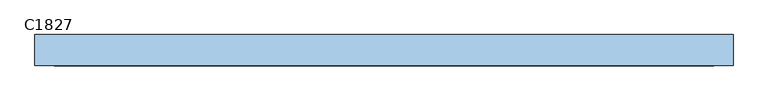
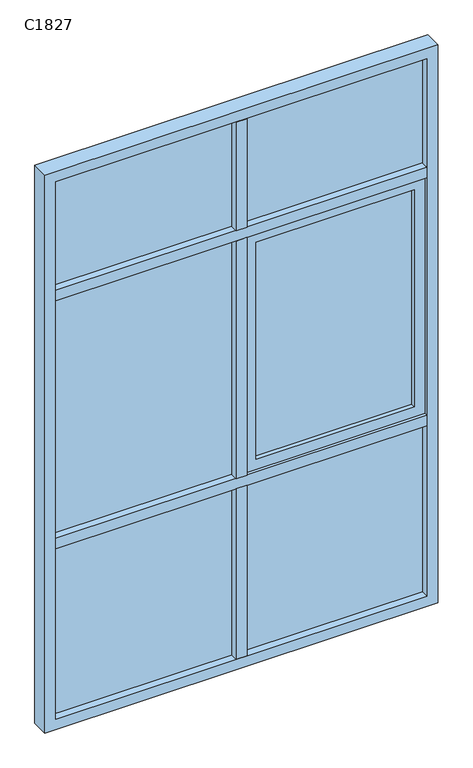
"""IFC4 building model written with IfcOpenShell, lengths in millimetres: window geometry, 组合窗 - 三层双列(平开+固定) : C1827."""

import ifcopenshell
import ifcopenshell.guid

model = None  # the IFC model being written
_history = None  # IfcOwnerHistory: only IFC2X3 demands one
_inside = {}  # id of a spatial element -> (the spatial element, [elements in it])
_under = {}  # id of a project, library or spatial element -> (it, [spatial elements below it])
_declared = {}  # id of a project -> (the project, [libraries it declares])
_typed = {}  # id of a type object -> (the type object, [elements of that type])
_made_of = {}  # id of a material, layer set ... -> (it, [elements and type objects made of it])


def new_model(schema):
    """Start an empty IFC model of exactly this schema.

    Asked for "IFC4X3", IfcOpenShell would pick the latest addendum, in which some entities
    have other attributes; the version numbers below select the first issue.
    IFC2X3 requires an IfcOwnerHistory on every rooted entity: one is made here for all.
    """
    global model, _history
    if schema == "IFC4X3":
        model = ifcopenshell.file(schema_version=(4, 3, 0, 0))
    else:
        model = ifcopenshell.file(schema=schema)
    _inside.clear()
    _under.clear()
    _declared.clear()
    _typed.clear()
    _made_of.clear()
    _history = None
    if model.schema == "IFC2X3":
        org = make("IfcOrganization", Name="unknown")
        user = make(
            "IfcPersonAndOrganization",
            ThePerson=make("IfcPerson", FamilyName="unknown"),
            TheOrganization=org,
        )
        app = make(
            "IfcApplication",
            ApplicationDeveloper=org,
            Version="unknown",
            ApplicationFullName="unknown",
            ApplicationIdentifier="unknown",
        )
        _history = make(
            "IfcOwnerHistory",
            OwningUser=user,
            OwningApplication=app,
            ChangeAction="ADDED",
            CreationDate=0,
        )
    return model


def make(cls, **values):
    """One entity of the class cls with the attributes given. An attribute that is None is left unset."""
    return model.create_entity(
        cls, **{name: value for name, value in values.items() if value is not None}
    )


def rooted(cls, **values):
    """An entity with a GlobalId (a new one), such as an element, a storey or a relation."""
    return make(cls, GlobalId=ifcopenshell.guid.new(), OwnerHistory=_history, **values)


def si_unit(unit_type, name, prefix=None):
    """IfcSIUnit, for example si_unit("LENGTHUNIT", "METRE", prefix="MILLI")."""
    return make("IfcSIUnit", UnitType=unit_type, Prefix=prefix, Name=name)


def assignment(units):
    """IfcUnitAssignment: the units of a project."""
    return None if units is None else make("IfcUnitAssignment", Units=units)


def point(xyz):
    """IfcCartesianPoint."""
    return None if xyz is None else make("IfcCartesianPoint", Coordinates=xyz)


def direction(xyz):
    """IfcDirection."""
    return None if xyz is None else make("IfcDirection", DirectionRatios=xyz)


def frame(location, z_axis=None, x_axis=None):
    """IfcAxis2Placement3D, a coordinate frame: its origin and axes. An axis left out is left unset."""
    return make(
        "IfcAxis2Placement3D",
        Location=point(location),
        Axis=direction(z_axis),
        RefDirection=direction(x_axis),
    )


def origin():
    """The frame at (0, 0, 0) with its axes left unset."""
    return frame((0.0, 0.0, 0.0))


def place(relative_to, where):
    """IfcLocalPlacement: puts the frame where relative to a parent placement (None: the world)."""
    return make(
        "IfcLocalPlacement", PlacementRelTo=relative_to, RelativePlacement=where
    )


def context(
    kind, dimensions, precision=None, world=None, true_north=None, identifier=None
):
    """IfcGeometricRepresentationContext, for example the 3D "Model" context."""
    return make(
        "IfcGeometricRepresentationContext",
        ContextIdentifier=identifier,
        ContextType=kind,
        CoordinateSpaceDimension=dimensions,
        Precision=precision,
        WorldCoordinateSystem=world,
        TrueNorth=true_north,
    )


def project(units=None, contexts=None):
    """IfcProject with its units and contexts."""
    return rooted(
        "IfcProject",
        Name="project",
        RepresentationContexts=contexts,
        UnitsInContext=assignment(units),
    )


def spatial(cls, under=None, at=None, **own):
    """A site, building, storey or space (cls), placed at a placement, below another one or the project."""
    s = rooted(cls, ObjectPlacement=at, **own)
    if under is not None:
        _under.setdefault(under.id(), (under, []))[1].append(s)
    return s


def polyline(points):
    """IfcPolyline through the points."""
    return make("IfcPolyline", Points=[point(p) for p in points])


def outline(outer, holes=None, kind="AREA"):
    """IfcArbitraryClosedProfileDef: a profile drawn as a closed curve; with holes, ...WithVoids."""
    if holes is None:
        return make("IfcArbitraryClosedProfileDef", ProfileType=kind, OuterCurve=outer)
    return make(
        "IfcArbitraryProfileDefWithVoids",
        ProfileType=kind,
        OuterCurve=outer,
        InnerCurves=holes,
    )


def extrude(swept, where, along, depth):
    """IfcExtrudedAreaSolid: the profile swept, set in the frame where, extruded along a direction by depth."""
    return make(
        "IfcExtrudedAreaSolid",
        SweptArea=swept,
        Position=where,
        ExtrudedDirection=direction(along),
        Depth=depth,
    )


def shape(context_of_items, identifier, shape_type, items):
    """IfcShapeRepresentation: the items that make up one representation, for example the "Body"."""
    return make(
        "IfcShapeRepresentation",
        ContextOfItems=context_of_items,
        RepresentationIdentifier=identifier,
        RepresentationType=shape_type,
        Items=items,
    )


def source(mapping_origin, context_of_items, identifier, shape_type, items):
    """IfcRepresentationMap: a shape defined once, which mapped items show again and again."""
    return make(
        "IfcRepresentationMap",
        MappingOrigin=mapping_origin,
        MappedRepresentation=shape(context_of_items, identifier, shape_type, items),
    )


def transform(
    local_origin,
    x_axis=None,
    y_axis=None,
    z_axis=None,
    scale=None,
    scale2=None,
    scale3=None,
    uniform=True,
):
    """IfcCartesianTransformationOperator3D, or its non-uniform kind. x_axis, y_axis, z_axis: its Axis1, 2, 3."""
    if uniform:
        return make(
            "IfcCartesianTransformationOperator3D",
            Axis1=direction(x_axis),
            Axis2=direction(y_axis),
            LocalOrigin=point(local_origin),
            Scale=scale,
            Axis3=direction(z_axis),
        )
    return make(
        "IfcCartesianTransformationOperator3DnonUniform",
        Axis1=direction(x_axis),
        Axis2=direction(y_axis),
        LocalOrigin=point(local_origin),
        Scale=scale,
        Axis3=direction(z_axis),
        Scale2=scale2,
        Scale3=scale3,
    )


def mapped(mapping_source, mapping_target):
    """IfcMappedItem: shows the shape of a source again, moved by a transform."""
    return make(
        "IfcMappedItem", MappingSource=mapping_source, MappingTarget=mapping_target
    )


def made_of(thing, what):
    """Note that an element or type object is made of a material, layer set ...; save() writes the relation."""
    if what is not None:
        _made_of.setdefault(what.id(), (what, []))[1].append(thing)
    return thing


def element(
    cls,
    number,
    at=None,
    inside=None,
    cuts=None,
    type_object=None,
    material=None,
    context=None,
    identifier="Body",
    shape_type=None,
    held_by="IfcProductDefinitionShape",
    body=None,
    shapes=None,
    **own,
):
    """One element of the class cls, such as IfcWall. Its Tag is "e" and its number.

    at: its placement. inside: the storey or other place that contains it. cuts: it is an
    opening in that element (IfcRelVoidsElement). A single representation is given by context,
    identifier, shape_type and body (its items); several are given by shapes. held_by: the class
    of the entity that holds the representations. save() writes the other relations.
    """
    e = rooted(cls, Tag="e%d" % number, ObjectPlacement=at, **own)
    if body is not None:
        shapes = [shape(context, identifier, shape_type, body)]
    if shapes is not None:
        e.Representation = make(held_by, Representations=shapes)
    if inside is not None:
        _inside.setdefault(inside.id(), (inside, []))[1].append(e)
    if cuts is not None:
        rooted(
            "IfcRelVoidsElement", RelatingBuildingElement=cuts, RelatedOpeningElement=e
        )
    if type_object is not None:
        _typed.setdefault(type_object.id(), (type_object, []))[1].append(e)
    return made_of(e, material)


def aggregate(whole, parts):
    """IfcRelAggregates: a whole, such as a stair, and the parts it consists of."""
    return rooted("IfcRelAggregates", RelatingObject=whole, RelatedObjects=parts)


def save(model, path):
    """Write the relations noted so far, then the file.

    IfcRelAggregates (storeys below a building ...), IfcRelContainedInSpatialStructure (elements
    in a storey), IfcRelDefinesByType, IfcRelAssociatesMaterial and IfcRelDeclares: one each for
    every whole, place, type object, material and project.
    """
    for whole, parts in _under.values():
        aggregate(whole, parts)
    for where, things in _inside.values():
        rooted(
            "IfcRelContainedInSpatialStructure",
            RelatedElements=things,
            RelatingStructure=where,
        )
    for kind, things in _typed.values():
        rooted("IfcRelDefinesByType", RelatedObjects=things, RelatingType=kind)
    for what, things in _made_of.values():
        rooted("IfcRelAssociatesMaterial", RelatedObjects=things, RelatingMaterial=what)
    for by, libraries in _declared.values():
        rooted("IfcRelDeclares", RelatingContext=by, RelatedDefinitions=libraries)
    model.write(path)


def c1827_75bc612b(model_context):
    return source(origin(), model_context, "Body", "SweptSolid", [
        extrude(outline(polyline([(-25.0, 10.0), (-850.0, 10.0), (-850.0, 20.0), (-25.0, 20.0), (-25.0, 10.0)])), frame((0.0, 0.0, 2125.0), z_axis=(0.0, 0.0, 1.0), x_axis=(1.0, 0.0, 0.0)), (0.0, 0.0, 1.0), 525.0),
        extrude(outline(polyline([(-25.0, 10.0), (-850.0, 10.0), (-850.0, 20.0), (-25.0, 20.0), (-25.0, 10.0)])), frame((0.0, 0.0, 925.0), z_axis=(0.0, 0.0, 1.0), x_axis=(1.0, 0.0, 0.0)), (0.0, 0.0, 1.0), 1150.0),
        extrude(outline(polyline([(-25.0, 10.0), (-850.0, 10.0), (-850.0, 20.0), (-25.0, 20.0), (-25.0, 10.0)])), frame((0.0, 0.0, 50.0), z_axis=(0.0, 0.0, 1.0), x_axis=(1.0, 0.0, 0.0)), (0.0, 0.0, 1.0), 825.0),
        extrude(outline(polyline([(850.0, 10.0), (25.0, 10.0), (25.0, 20.0), (850.0, 20.0), (850.0, 10.0)])), frame((0.0, 0.0, 50.0), z_axis=(0.0, 0.0, 1.0), x_axis=(1.0, 0.0, 0.0)), (0.0, 0.0, 1.0), 825.0),
        extrude(outline(polyline([(800.0, 10.0), (75.0, 10.0), (75.0, 20.0), (800.0, 20.0), (800.0, 10.0)])), frame((0.0, 0.0, 975.0), z_axis=(0.0, 0.0, 1.0), x_axis=(1.0, 0.0, 0.0)), (0.0, 0.0, 1.0), 1050.0),
        extrude(outline(polyline([(2075.0, 850.0), (2075.0, 25.0), (925.0, 25.0), (925.0, 850.0), (2075.0, 850.0)]), holes=[polyline([(975.0, 800.0), (975.0, 75.0), (2025.0, 75.0), (2025.0, 800.0), (975.0, 800.0)])]), frame((0.0, -10.0, 0.0), z_axis=(0.0, 1.0, 0.0), x_axis=(0.0, 0.0, 1.0)), (0.0, 0.0, 1.0), 50.0),
        extrude(outline(polyline([(850.0, 10.0), (25.0, 10.0), (25.0, 20.0), (850.0, 20.0), (850.0, 10.0)])), frame((0.0, 0.0, 2125.0), z_axis=(0.0, 0.0, 1.0), x_axis=(1.0, 0.0, 0.0)), (0.0, 0.0, 1.0), 525.0),
        extrude(outline(polyline([(-25.0, 55.0), (25.0, 55.0), (25.0, -25.0), (-25.0, -25.0), (-25.0, 55.0)])), frame((0.0, 0.0, 2125.0), z_axis=(0.0, 0.0, 1.0), x_axis=(1.0, 0.0, 0.0)), (0.0, 0.0, 1.0), 525.0),
        extrude(outline(polyline([(-25.0, 55.0), (25.0, 55.0), (25.0, -25.0), (-25.0, -25.0), (-25.0, 55.0)])), frame((0.0, 0.0, 925.0), z_axis=(0.0, 0.0, 1.0), x_axis=(1.0, 0.0, 0.0)), (0.0, 0.0, 1.0), 1150.0),
        extrude(outline(polyline([(-25.0, 55.0), (25.0, 55.0), (25.0, -25.0), (-25.0, -25.0), (-25.0, 55.0)])), frame((0.0, 0.0, 50.0), z_axis=(0.0, 0.0, 1.0), x_axis=(1.0, 0.0, 0.0)), (0.0, 0.0, 1.0), 825.0),
        extrude(outline(polyline([(-850.0, 55.0), (850.0, 55.0), (850.0, -25.0), (-850.0, -25.0), (-850.0, 55.0)])), frame((0.0, 0.0, 2075.0), z_axis=(0.0, 0.0, 1.0), x_axis=(1.0, 0.0, 0.0)), (0.0, 0.0, 1.0), 50.0),
        extrude(outline(polyline([(-850.0, 55.0), (850.0, 55.0), (850.0, -25.0), (-850.0, -25.0), (-850.0, 55.0)])), frame((0.0, 0.0, 875.0), z_axis=(0.0, 0.0, 1.0), x_axis=(1.0, 0.0, 0.0)), (0.0, 0.0, 1.0), 50.0),
        extrude(outline(polyline([(2700.0, -900.0), (0.0, -900.0), (0.0, 900.0), (2700.0, 900.0), (2700.0, -900.0)]), holes=[polyline([(2650.0, 850.0), (50.0, 850.0), (50.0, -850.0), (2650.0, -850.0), (2650.0, 850.0)])]), frame((0.0, -25.0, 0.0), z_axis=(0.0, 1.0, 0.0), x_axis=(0.0, 0.0, 1.0)), (0.0, 0.0, 1.0), 80.0),
    ])


if __name__ == "__main__":
    model = new_model("IFC4")
    model_context = context("Model", 3, world=origin())
    ifc_project = project(units=[si_unit("LENGTHUNIT", "METRE", prefix="MILLI")], contexts=[model_context])
    site = spatial("IfcSite", under=ifc_project)
    building = spatial("IfcBuilding", under=site)
    placement = place(None, origin())
    c1827_shape = c1827_75bc612b(model_context)
    element("IfcWindow", 1, ObjectType="组合窗 - 三层双列(平开+固定) : C1827", at=placement, inside=building, context=model_context, shape_type="MappedRepresentation", body=[
        mapped(c1827_shape, transform((0.0, 0.0, 0.0), x_axis=(1.0, 0.0, 0.0), y_axis=(0.0, 1.0, 0.0), z_axis=(0.0, 0.0, 1.0))),
    ])
    save(model, "model.ifc")
